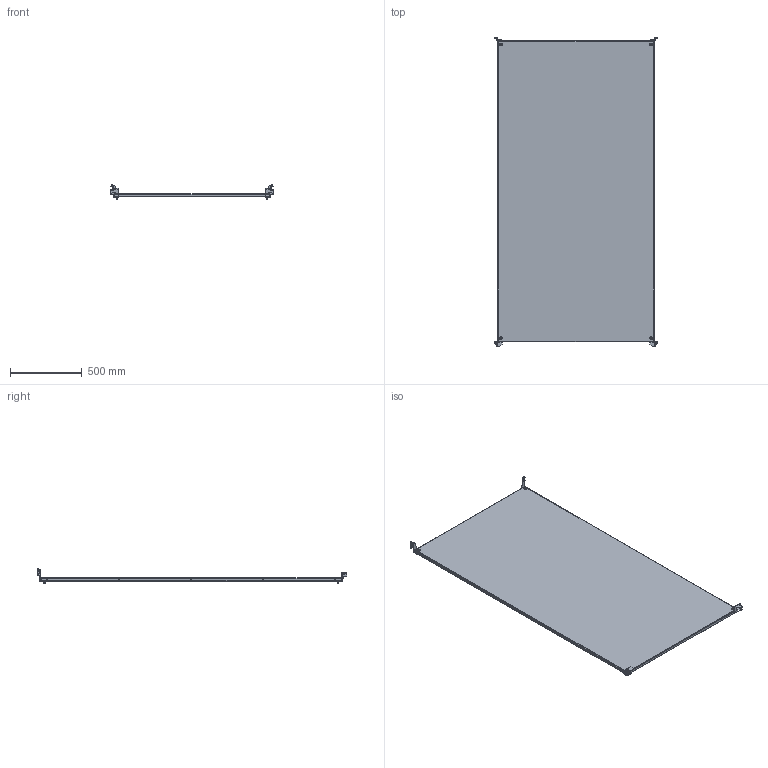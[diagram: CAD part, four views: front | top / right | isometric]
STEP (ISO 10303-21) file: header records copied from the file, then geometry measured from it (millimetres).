
FILE_DESCRIPTION(('STEP AP203'), '1');
FILE_NAME('3522.220.120 Ïàíåëü ìîíòàæíàÿ', '', ('UNSPECIFIED'), ('UNSPECIFIED'), 'C3D Converter', 'C3D Toolkit', '');
FILE_SCHEMA(('CONFIG_CONTROL_DESIGN'));
Length unit declared in the file: millimetre
Products named in the file (1): 3522.220.120
Bounding box: 1138.8 x 2150.5 x 101.8 mm (x, y, z)
Volume: 7499308.5 mm3; surface area: 5029726.6 mm2
Topology: 12 solids, 12 shells, 812 faces, 2149 edges, 1399 vertices
Faces by surface type: plane 474, cylinder 200, bspline 80, cone 30, torus 18, sphere 10
Full cylindrical faces by diameter (mm): 3 x4, 4.8 x10, 4.917 x4, 6 x14, 6.4 x4, 7 x10, 7.6 x4, 9.5 x10, 10 x4, 18 x4, 20 x4
Entity records: 38205 total; most frequent: CARTESIAN_POINT 12042, ORIENTED_EDGE 4024, DIRECTION 3882, EDGE_CURVE 2012, VERTEX_POINT 1392, AXIS2_PLACEMENT_3D 1375, LINE 1132, VECTOR 1132
